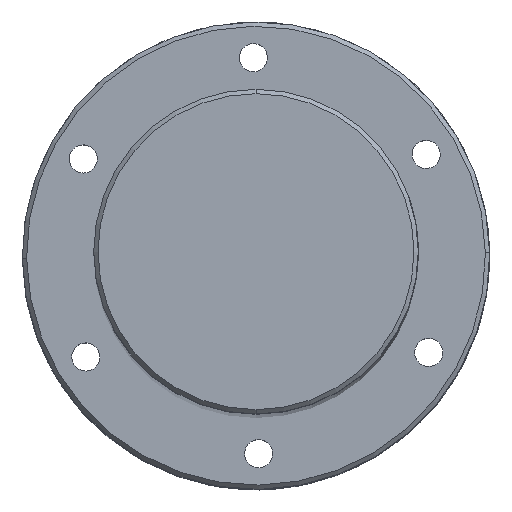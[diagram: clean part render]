
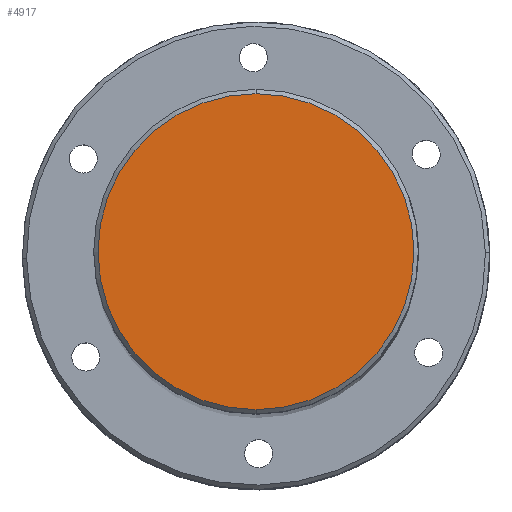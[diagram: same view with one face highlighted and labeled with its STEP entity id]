
A CAD part, top view. The second image highlights one B-rep face of the part: STEP entity #4917.
In plain terms, the highlighted planar face has unit normal (0, 0, 1) as drawn and (-1, 0, 0) by its records, which use the part's own axes.
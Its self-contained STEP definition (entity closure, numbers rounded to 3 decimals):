
#93 = AXIS2_PLACEMENT_3D ( 'NONE', #5570, #11967, #6918 ) ;
#179 = ORIENTED_EDGE ( 'NONE', *, *, #15858, .T. ) ;
#233 = DIRECTION ( 'NONE',  ( -1., 0., 0. ) ) ;
#1649 = CARTESIAN_POINT ( 'NONE',  ( 0., 0., -36.5 ) ) ;
#2111 = EDGE_LOOP ( 'NONE', ( #17270, #179 ) ) ;
#2233 = CIRCLE ( 'NONE', #93, 36.5 ) ;
#2805 = CIRCLE ( 'NONE', #4521, 36.5 ) ;
#4521 = AXIS2_PLACEMENT_3D ( 'NONE', #16044, #233, #6803 ) ;
#4917 = ADVANCED_FACE ( 'NONE', ( #7761 ), #13024, .F. ) ;
#5570 = CARTESIAN_POINT ( 'NONE',  ( 0., 0., 0. ) ) ;
#6150 = DIRECTION ( 'NONE',  ( 0., 0., -1. ) ) ;
#6803 = DIRECTION ( 'NONE',  ( 0., 0., -1. ) ) ;
#6918 = DIRECTION ( 'NONE',  ( 0., 0., -1. ) ) ;
#7761 = FACE_OUTER_BOUND ( 'NONE', #2111, .T. ) ;
#7831 = CARTESIAN_POINT ( 'NONE',  ( 0., 0., 36.5 ) ) ;
#10693 = AXIS2_PLACEMENT_3D ( 'NONE', #14540, #15840, #6150 ) ;
#11866 = VERTEX_POINT ( 'NONE', #1649 ) ;
#11967 = DIRECTION ( 'NONE',  ( -1., 0., 0. ) ) ;
#12659 = EDGE_CURVE ( 'NONE', #11866, #16927, #2805, .T. ) ;
#13024 = PLANE ( 'NONE',  #10693 ) ;
#14540 = CARTESIAN_POINT ( 'NONE',  ( 0., 0., 0. ) ) ;
#15840 = DIRECTION ( 'NONE',  ( 1., 0., 0. ) ) ;
#15858 = EDGE_CURVE ( 'NONE', #16927, #11866, #2233, .T. ) ;
#16044 = CARTESIAN_POINT ( 'NONE',  ( 0., 0., 0. ) ) ;
#16927 = VERTEX_POINT ( 'NONE', #7831 ) ;
#17270 = ORIENTED_EDGE ( 'NONE', *, *, #12659, .T. ) ;
